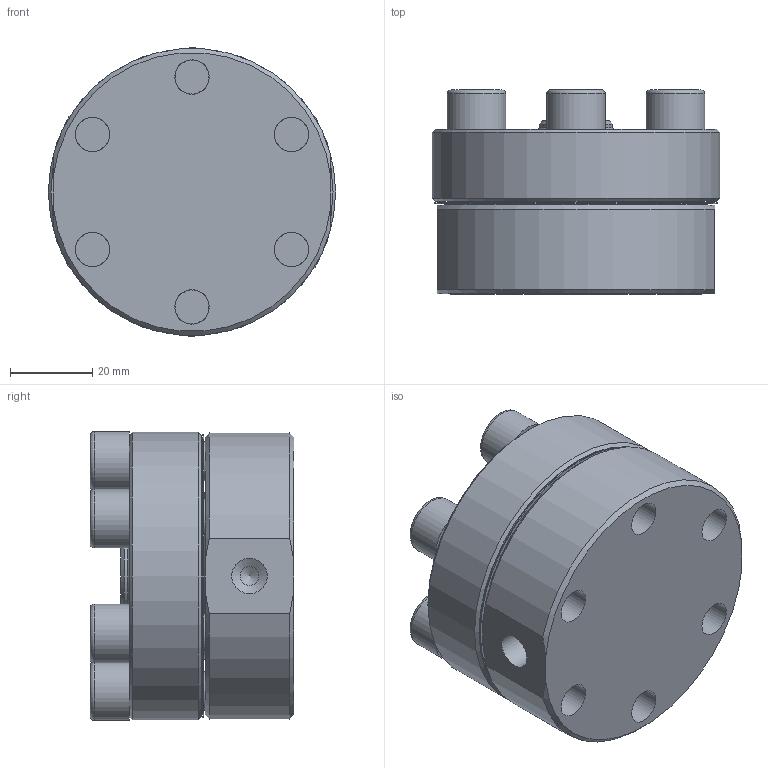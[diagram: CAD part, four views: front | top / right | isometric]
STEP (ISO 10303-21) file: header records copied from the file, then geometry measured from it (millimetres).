
FILE_DESCRIPTION(/* description */ (''),/* implementation_level */ '2;1');
FILE_NAME(/* name */ 'Z:\Models\Instrument Series\EB1HP1\H6P1 Assembly External.stp',/* time_stamp */ '2015-11-23T12:24:17-05:00',/* author */ ('Owner'),/* organization */ (''),/* preprocessor_version */ 'ST-DEVELOPER v15.6',/* originating_system */ 'Autodesk Inventor 2015',/* authorisation */ '');
FILE_SCHEMA (('AUTOMOTIVE_DESIGN { 1 0 10303 214 3 1 1 }'));
Length unit declared in the file: inch
Products named in the file (7): H6P1 - External; H6P RC; O-27; O-29; H6P & U6L Diaphragm; ANSI B18.3 - 3_8-24 UNF - 1(31); H6P1 Assembly External
Assembly tree (11 placements, depth 2):
  H6P1 Assembly External
    H6P1 - External
    H6P RC
    O-27
    O-29
    H6P & U6L Diaphragm
    ANSI B18.3 - 3_8-24 UNF - 1(31)  x6
Bounding box: 69.85 x 49.54 x 70.13 mm (x, y, z)
Volume: 149807.3 mm3; surface area: 48241.8 mm2
Topology: 11 solids, 11 shells, 167 faces, 392 edges, 255 vertices
Faces by surface type: plane 76, cylinder 47, cone 25, torus 19
Full cylindrical faces by diameter (mm): 0.762 x1, 4.572 x2, 8.382 x6, 8.611 x3, 9.525 x6, 9.804 x12, 14.275 x6, 17.78 x1, 31.318 x1, 36.373 x2, 41.377 x1, 68.58 x1, 69.85 x1
Entity records: 2582 total; most frequent: DIRECTION 452, CARTESIAN_POINT 438, ORIENTED_EDGE 308, AXIS2_PLACEMENT_3D 208, EDGE_LOOP 188, EDGE_CURVE 154, VERTEX_POINT 128, CIRCLE 98
